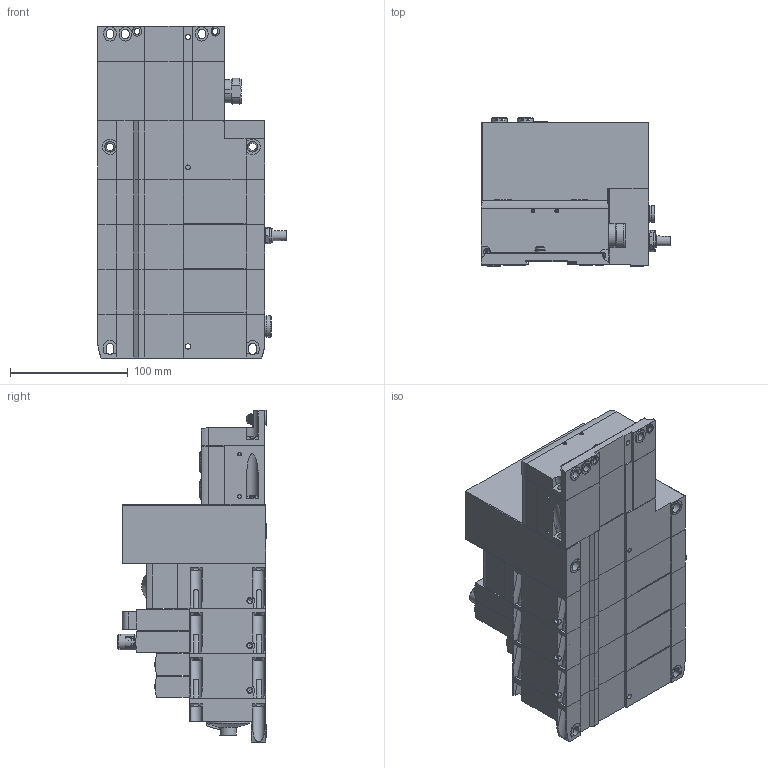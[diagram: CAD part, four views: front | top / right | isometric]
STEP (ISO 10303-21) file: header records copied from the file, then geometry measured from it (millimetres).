
FILE_DESCRIPTION( ( 'STEP AP214' ), '1' );
FILE_NAME( 'p:/temp/worker_1075/temp/exporttempdir_420_485_bsq25/format_0/Configuration05_8073100_51E-F33GCQP-RC.stp', '2020-07-23T15:21:59', ( 'License CC BY-ND 4.0' ), ( 'CADENAS' ), ' ', 'PARTsolutions', ' ' );
FILE_SCHEMA( ( 'AUTOMOTIVE_DESIGN { 1 0 10303 214 1 1 1 1 }' ) );
Length unit declared in the file: millimetre
Products named in the file (18): 8073100 51E-F33GCQP-RC 46P-B-YZCB-UYLNGWOGWYBA-CSJLL; HI_8068240 VABA-S6-1-X2-F1-CB---(EPL); HI_8092506 VABF-S6-1-P1A7-G12-CB---(VT46); HI_676829 VNIA-99-ZW-AD-PI-DECKEL---(VT46); _8068913 VABV-S4-2HS-G18-CB-2T5---(VKPL_0); _3568 B-1/8---(VCB); HI_8066569 VSVA-BT-M32CS1-MYE-A2-1T5L-PA---(VT4617); _1205860 AMTE-M-LH-G18---(VCB); HI_8033450 VSVA-B-B52-ZTR-A2-1T1L---(VT462); _4105147 VAMC-B-S6-CTR---(vtsa_kappe); _8067932 VABV-S4-2HS-G18-CB-2T2---(VKPL_0); HI_539213 VABB-S4-2-WT---(VT465); _539238 VABE-S6-1RZ-G-B1---(PL); _3569 B-1/4---(VCBE); HI_550212 CPX-M-EPL-EV---(EPL_51E); HI_550208 CPX-M-GE-EV-S-7/8-5POL---(EV); HI_548755 CPX-FB33---(EA); HI_548757 CPX-AK-P---(g_2_1)
Assembly tree (19 placements, depth 2):
  8073100 51E-F33GCQP-RC 46P-B-YZCB-UYLNGWOGWYBA-CSJLL
    HI_8068240 VABA-S6-1-X2-F1-CB---(EPL)
    HI_8092506 VABF-S6-1-P1A7-G12-CB---(VT46)
    HI_676829 VNIA-99-ZW-AD-PI-DECKEL---(VT46)
    _8068913 VABV-S4-2HS-G18-CB-2T5---(VKPL_0)
    _3568 B-1/8---(VCB)
    HI_8066569 VSVA-BT-M32CS1-MYE-A2-1T5L-PA---(VT4617)
    _1205860 AMTE-M-LH-G18---(VCB)
    HI_8033450 VSVA-B-B52-ZTR-A2-1T1L---(VT462)
    _4105147 VAMC-B-S6-CTR---(vtsa_kappe)  x2
    _8067932 VABV-S4-2HS-G18-CB-2T2---(VKPL_0)
    HI_539213 VABB-S4-2-WT---(VT465)  x2
    _539238 VABE-S6-1RZ-G-B1---(PL)
    _3569 B-1/4---(VCBE)
    HI_550212 CPX-M-EPL-EV---(EPL_51E)
    HI_550208 CPX-M-GE-EV-S-7/8-5POL---(EV)
    HI_548755 CPX-FB33---(EA)
    HI_548757 CPX-AK-P---(g_2_1)
Bounding box: 161.2 x 126.04 x 281.8 mm (x, y, z)
Volume: 2655837.7 mm3; surface area: 407288.5 mm2
Topology: 19 solids, 19 shells, 2276 faces, 5809 edges, 3786 vertices
Faces by surface type: plane 1257, cylinder 748, cone 230, torus 30, bspline 8, sphere 3
Full cylindrical faces by diameter (mm): 1.1 x12, 2 x5, 2.3 x2, 2.459 x4, 2.8 x2, 3.2 x4, 3.242 x16, 3.3 x13, 4 x7, 4.134 x25, 4.3 x5, 4.5 x1, 5 x18, 5.2 x16, 5.5 x4, 5.6 x2, 5.8 x2, 6 x10, 6.4 x3, 6.5 x9, 6.6 x4, 7.5 x4, 7.6 x4, 8 x5, 8.2 x2, 8.5 x4, 8.566 x8, 9 x3, 9.728 x2, 10.917 x3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
Entity records: 80485 total; most frequent: CARTESIAN_POINT 12161, DIRECTION 10927, ORIENTED_EDGE 9744, EDGE_CURVE 4872, AXIS2_PLACEMENT_3D 4057, VERTEX_POINT 3460, EDGE_LOOP 2910, LINE 2813
